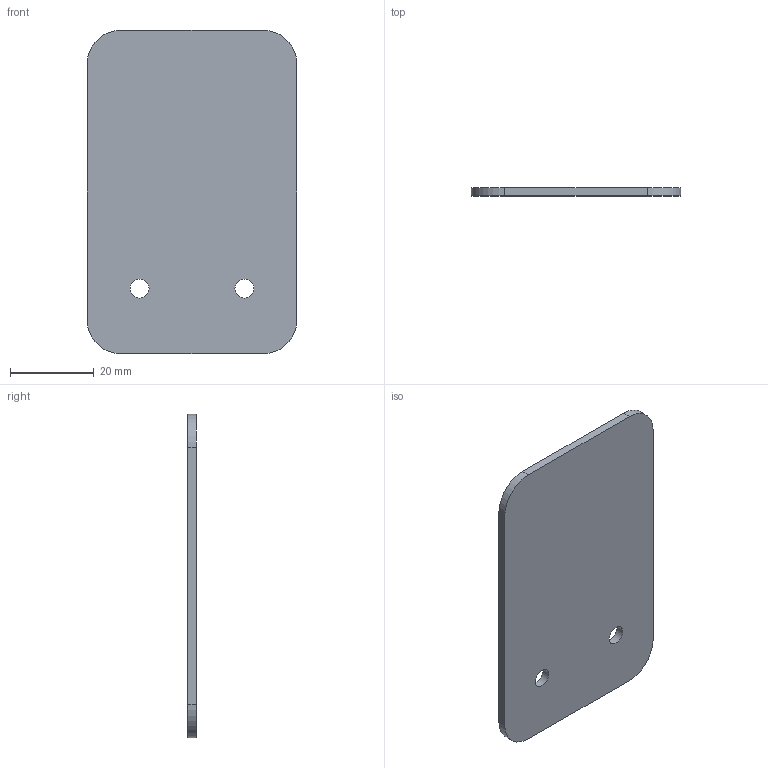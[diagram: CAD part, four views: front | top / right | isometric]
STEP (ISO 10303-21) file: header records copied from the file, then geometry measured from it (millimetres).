
FILE_DESCRIPTION (( 'STEP AP214' ), '1' );
FILE_NAME ('MONO_038-p301_01 (FLAT PATTERN).STEP', '2025-09-23T04:53:45', ( '' ), ( '' ), 'SwSTEP 2.0', 'SolidWorks 2024', '' );
FILE_SCHEMA (( 'AUTOMOTIVE_DESIGN' ));
Length unit declared in the file: millimetre
Products named in the file (1): MONO_038-p301_01 (FLAT PATTERN)
Bounding box: 50 x 2 x 77.09 mm (x, y, z)
Volume: 7535 mm3; surface area: 8072.5 mm2
Topology: 1 solids, 1 shells, 12 faces, 30 edges, 20 vertices
Faces by surface type: plane 6, cylinder 6
Full cylindrical faces by diameter (mm): 4.5 x2
Entity records: 387 total; most frequent: DIRECTION 66, CARTESIAN_POINT 61, ORIENTED_EDGE 56, EDGE_CURVE 28, AXIS2_PLACEMENT_3D 25, VERTEX_POINT 20, EDGE_LOOP 18, VECTOR 16
